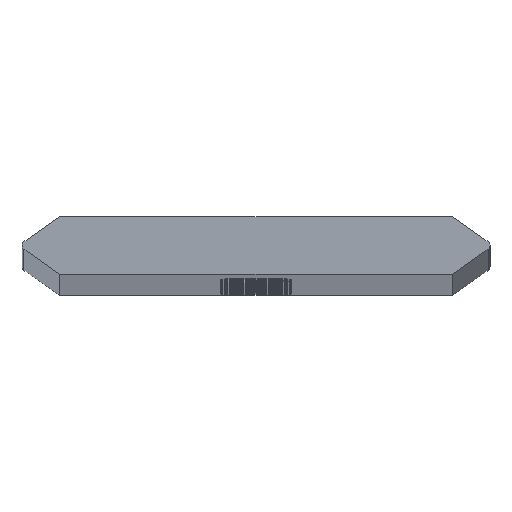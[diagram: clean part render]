
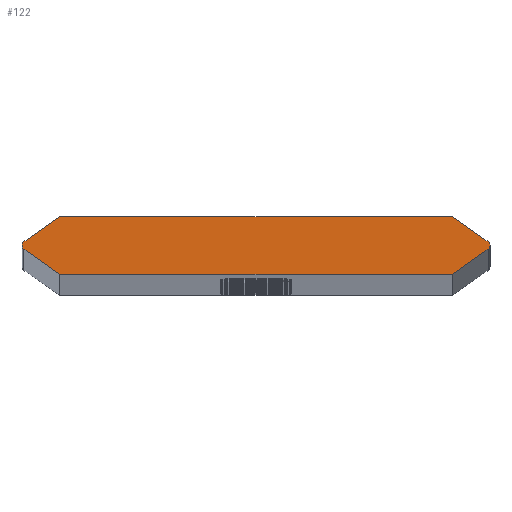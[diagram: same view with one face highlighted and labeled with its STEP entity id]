
A CAD part, top view. The second image highlights one B-rep face of the part: STEP entity #122.
In plain terms, the highlighted planar face has unit normal (0, 0, 1).
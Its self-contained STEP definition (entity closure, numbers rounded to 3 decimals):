
#122=ADVANCED_FACE('',(#226),#227,.T.);
#226=FACE_OUTER_BOUND('',#382,.T.);
#227=PLANE('',#383);
#382=EDGE_LOOP('',(#773,#774,#775,#776,#777,#778,#779,#780,#781,#782));
#383=AXIS2_PLACEMENT_3D('',#783,#784,#785);
#773=ORIENTED_EDGE('',*,*,#941,.T.);
#774=ORIENTED_EDGE('',*,*,#1078,.T.);
#775=ORIENTED_EDGE('',*,*,#1079,.F.);
#776=ORIENTED_EDGE('',*,*,#1080,.F.);
#777=ORIENTED_EDGE('',*,*,#1081,.F.);
#778=ORIENTED_EDGE('',*,*,#937,.T.);
#779=ORIENTED_EDGE('',*,*,#1082,.T.);
#780=ORIENTED_EDGE('',*,*,#1083,.F.);
#781=ORIENTED_EDGE('',*,*,#1084,.F.);
#782=ORIENTED_EDGE('',*,*,#1085,.F.);
#783=CARTESIAN_POINT('',(0.0,0.,1976.0));
#784=DIRECTION('',(0.0,0.0,1.0));
#785=DIRECTION('',(1.0,0.0,0.0));
#937=EDGE_CURVE('',#1101,#1098,#1102,.T.);
#941=EDGE_CURVE('',#1109,#1106,#1110,.T.);
#1078=EDGE_CURVE('',#1106,#1336,#1338,.T.);
#1079=EDGE_CURVE('',#1339,#1336,#1340,.T.);
#1080=EDGE_CURVE('',#1341,#1339,#1342,.T.);
#1081=EDGE_CURVE('',#1101,#1341,#1343,.T.);
#1082=EDGE_CURVE('',#1098,#1344,#1345,.T.);
#1083=EDGE_CURVE('',#1346,#1344,#1347,.T.);
#1084=EDGE_CURVE('',#1348,#1346,#1349,.T.);
#1085=EDGE_CURVE('',#1109,#1348,#1350,.T.);
#1098=VERTEX_POINT('',#1368);
#1101=VERTEX_POINT('',#1372);
#1102=CIRCLE('',#1373,0.76);
#1106=VERTEX_POINT('',#1378);
#1109=VERTEX_POINT('',#1382);
#1110=CIRCLE('',#1383,0.76);
#1336=VERTEX_POINT('',#1654);
#1338=CIRCLE('',#1657,0.76);
#1339=VERTEX_POINT('',#1658);
#1340=LINE('',#1659,#1660);
#1341=VERTEX_POINT('',#1661);
#1342=LINE('',#1662,#1663);
#1343=LINE('',#1664,#1665);
#1344=VERTEX_POINT('',#1666);
#1345=CIRCLE('',#1667,0.76);
#1346=VERTEX_POINT('',#1668);
#1347=LINE('',#1669,#1670);
#1348=VERTEX_POINT('',#1671);
#1349=LINE('',#1672,#1673);
#1350=LINE('',#1674,#1675);
#1368=CARTESIAN_POINT('',(38.225,0.,1976.0));
#1372=CARTESIAN_POINT('',(37.904,-0.62,1976.0));
#1373=AXIS2_PLACEMENT_3D('',#1705,#1706,#1707);
#1378=CARTESIAN_POINT('',(-38.225,0.,1976.0));
#1382=CARTESIAN_POINT('',(-37.904,0.62,1976.0));
#1383=AXIS2_PLACEMENT_3D('',#1713,#1714,#1715);
#1654=CARTESIAN_POINT('',(-37.904,-0.62,1976.0));
#1657=AXIS2_PLACEMENT_3D('',#2032,#2033,#2034);
#1658=CARTESIAN_POINT('',(-32.056,-4.715,1976.0));
#1659=CARTESIAN_POINT('',(-38.79,0.,1976.0));
#1660=VECTOR('',#2035,1.0);
#1661=CARTESIAN_POINT('',(32.056,-4.715,1976.0));
#1662=CARTESIAN_POINT('',(32.056,-4.715,1976.0));
#1663=VECTOR('',#2036,1.0);
#1664=CARTESIAN_POINT('',(38.79,0.0,1976.0));
#1665=VECTOR('',#2037,1.0);
#1666=CARTESIAN_POINT('',(37.904,0.62,1976.0));
#1667=AXIS2_PLACEMENT_3D('',#2038,#2039,#2040);
#1668=CARTESIAN_POINT('',(32.056,4.715,1976.0));
#1669=CARTESIAN_POINT('',(38.79,0.0,1976.0));
#1670=VECTOR('',#2041,1.0);
#1671=CARTESIAN_POINT('',(-32.056,4.715,1976.0));
#1672=CARTESIAN_POINT('',(-32.056,4.715,1976.0));
#1673=VECTOR('',#2042,1.0);
#1674=CARTESIAN_POINT('',(-38.79,0.,1976.0));
#1675=VECTOR('',#2043,1.0);
#1705=CARTESIAN_POINT('',(37.465,0.0,1976.0));
#1706=DIRECTION('',(0.0,0.0,1.0));
#1707=DIRECTION('',(1.0,0.0,0.0));
#1713=CARTESIAN_POINT('',(-37.465,0.,1976.0));
#1714=DIRECTION('',(0.0,0.0,1.0));
#1715=DIRECTION('',(-1.0,0.,0.0));
#2032=CARTESIAN_POINT('',(-37.465,0.,1976.0));
#2033=DIRECTION('',(0.0,0.0,1.0));
#2034=DIRECTION('',(-1.0,0.,0.0));
#2035=DIRECTION('',(-0.819,0.574,0.0));
#2036=DIRECTION('',(-1.0,0.0,0.0));
#2037=DIRECTION('',(-0.819,-0.574,0.0));
#2038=CARTESIAN_POINT('',(37.465,0.0,1976.0));
#2039=DIRECTION('',(0.0,0.0,1.0));
#2040=DIRECTION('',(1.0,0.0,0.0));
#2041=DIRECTION('',(0.819,-0.574,0.0));
#2042=DIRECTION('',(1.0,0.,0.0));
#2043=DIRECTION('',(0.819,0.574,0.0));
